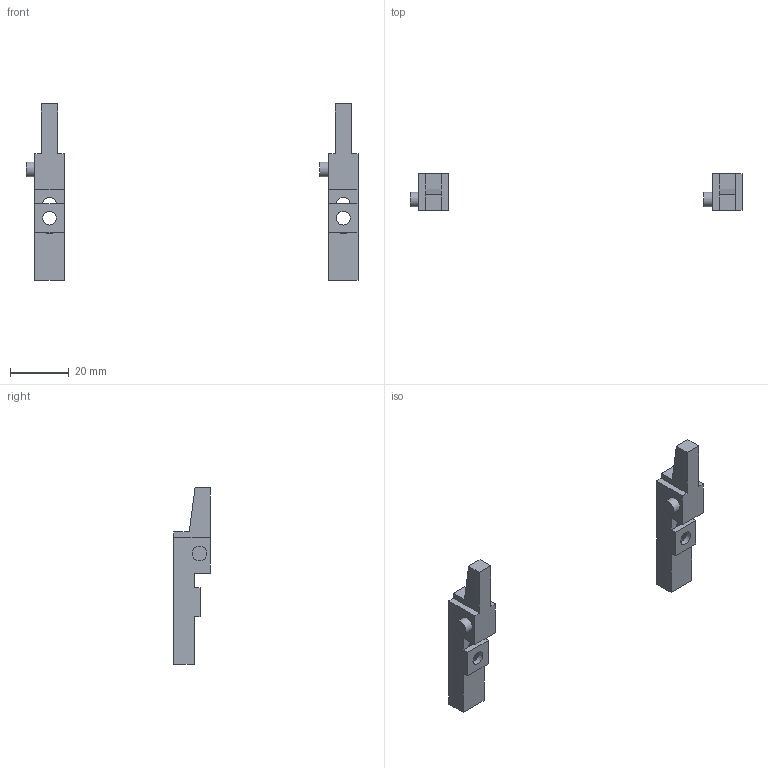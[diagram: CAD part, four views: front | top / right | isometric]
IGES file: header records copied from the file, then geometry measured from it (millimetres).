
Start section: Data from Parasolid IGES Translator 20.0.26, Copyright(c) 2006 Siemens P LM Software. All Rights Reserved.
Global section: file name: 9298847.igs; native system: By Siemens PLM Incorporated; preprocessor: XPlus GENERIC/IGES 20.0.26; author: Noname; organization: Noname; date: 20210830.170930; units: millimetre
Bounding box: 113 x 12.5 x 60 mm (x, y, z)
Surface area: 5143.9 mm2 (no closed solid volume)
Topology: 0 solids, 0 shells, 60 faces, 340 edges, 336 vertices
Faces by surface type: extrusion 50, revolution 10
